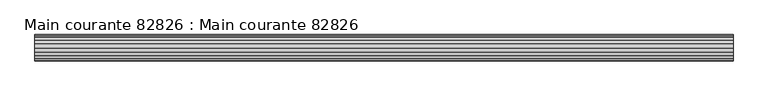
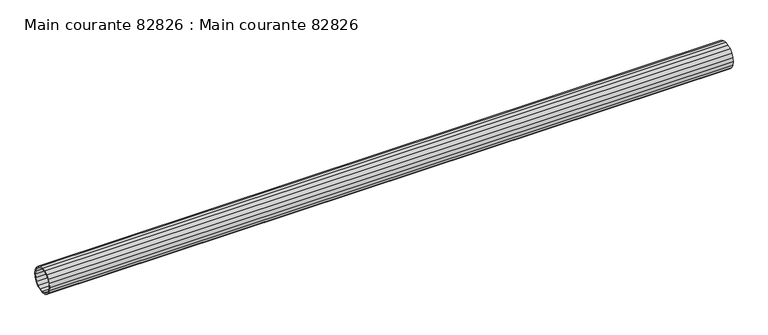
"""IFC4 building model written with IfcOpenShell, lengths in millimetres: beam geometry, Main courante 82826 : Main courante 82826."""

from ifc_helpers import new_model, si_unit, frame, origin, place, context, project, spatial, polyline, outline, extrude, source, transform, mapped, element, save


def main_courante_82826_main_courante_82826_9067a228(model_context):
    return source(origin(), model_context, "Body", "SweptSolid", [
        extrude(outline(polyline([(-24956.0, 8765.0), (-24954.8180149, 8772.4627604), (-24951.3877604, 8779.1950138), (-24946.0450138, 8784.5377604), (-24939.3127604, 8787.9680149), (-24931.85, 8789.15), (-24924.3872396, 8787.9680149), (-24917.6549862, 8784.5377604), (-24912.3122396, 8779.1950138), (-24908.8819851, 8772.4627604), (-24907.7, 8765.0), (-24908.8819851, 8757.5372396), (-24912.3122396, 8750.8049862), (-24917.6549862, 8745.4622396), (-24924.3872396, 8742.0319851), (-24931.85, 8740.85), (-24939.3127604, 8742.0319851), (-24946.0450138, 8745.4622396), (-24951.3877604, 8750.8049862), (-24954.8180149, 8757.5372396), (-24956.0, 8765.0)]), holes=[polyline([(-24953.5, 8765.0), (-24952.4403736, 8758.3097821), (-24949.3652179, 8752.2744493), (-24944.5755507, 8747.4847821), (-24938.5402179, 8744.4096264), (-24931.85, 8743.35), (-24925.1597821, 8744.4096264), (-24919.1244493, 8747.4847821), (-24914.3347821, 8752.2744493), (-24911.2596264, 8758.3097821), (-24910.2, 8765.0), (-24911.2596264, 8771.6902179), (-24914.3347821, 8777.7255507), (-24919.1244493, 8782.5152179), (-24925.1597821, 8785.5903736), (-24931.85, 8786.65), (-24938.5402179, 8785.5903736), (-24944.5755507, 8782.5152179), (-24949.3652179, 8777.7255507), (-24952.4403736, 8771.6902179), (-24953.5, 8765.0)])]), frame((8908.4999999, 0.0, 0.0), z_axis=(1.0, 0.0, 0.0), x_axis=(0.0, 1.0, 0.0)), (0.0, 0.0, 1.0), 1285.5),
    ])


if __name__ == "__main__":
    model = new_model("IFC4")
    model_context = context("Model", 3, world=origin())
    ifc_project = project(units=[si_unit("LENGTHUNIT", "METRE", prefix="MILLI")], contexts=[model_context])
    site = spatial("IfcSite", under=ifc_project)
    building = spatial("IfcBuilding", under=site)
    placement = place(None, origin())
    main_courante_82826_main_courante_82826_shape = main_courante_82826_main_courante_82826_9067a228(model_context)
    element("IfcBeam", 1, ObjectType="Main courante 82826 : Main courante 82826", at=placement, inside=building, context=model_context, shape_type="MappedRepresentation", body=[
        mapped(main_courante_82826_main_courante_82826_shape, transform((0.0, 0.0, 0.0), x_axis=(1.0, 0.0, 0.0), y_axis=(0.0, 1.0, 0.0), z_axis=(0.0, 0.0, 1.0))),
    ])
    save(model, "model.ifc")
